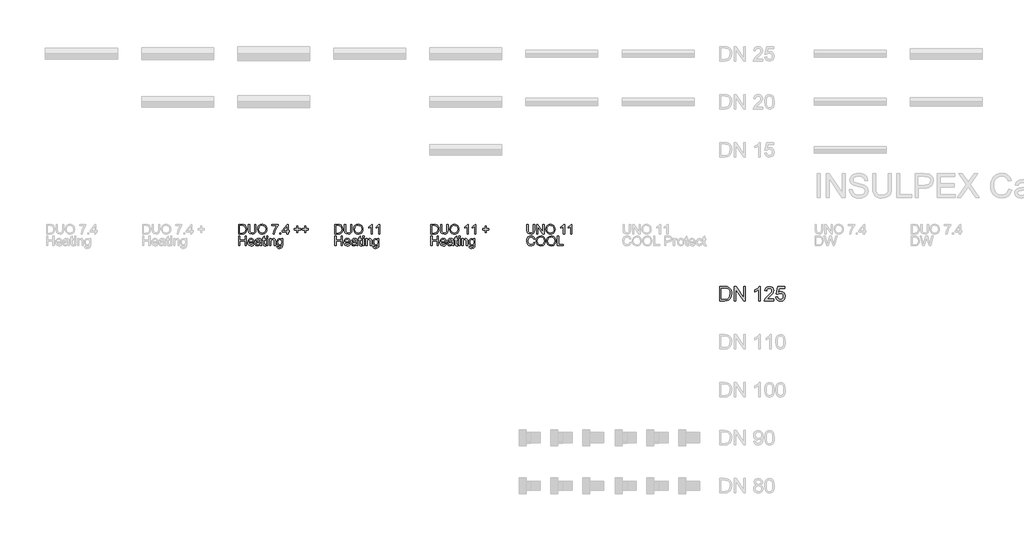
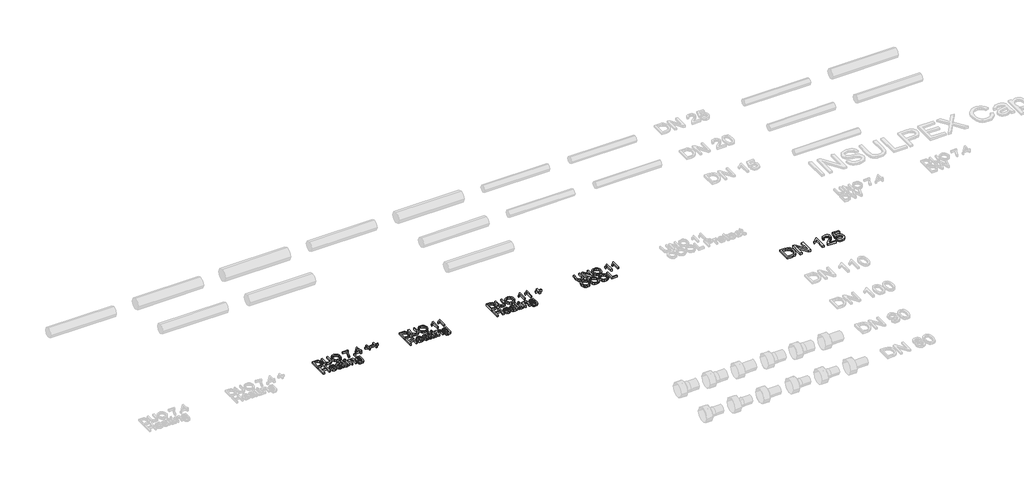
# One storey, part 17 of 44: 5 proxies.
"""IFC4 building model written with IfcOpenShell, lengths in millimetres."""

from ifc_helpers import new_model, si_unit, origin, origin_with_axes, place, context, project, spatial, polyline, outline, extrude, element, save

model = new_model("IFC4")

# Units and contexts
model_context = context("Model", 3, world=origin())
ifc_project = project(units=[si_unit("LENGTHUNIT", "METRE", prefix="MILLI")], contexts=[model_context])

# Site, building, storey
site = spatial("IfcSite", under=ifc_project)
building = spatial("IfcBuilding", under=site)
storey = spatial("IfcBuildingStorey", under=building, Name="REHAU Starting view", Elevation=0.0)

# Proxies
placement = place(None, origin())
element("IfcBuildingElementProxy", 1, Name="100", ObjectType="100", at=placement, inside=storey, context=model_context, shape_type="SweptSolid", body=[
    extrude(outline(polyline([(10010.9874089, 13121.9748178), (10010.9874089, 13222.431128), (10045.6418929, 13222.431128), (10063.5700088, 13220.9841255), (10078.3343395, 13213.7981638), (10090.2291907, 13196.6303374), (10094.1777908, 13172.7425332), (10091.5045149, 13152.4722352), (10084.6373844, 13137.8427946), (10075.4648599, 13128.7315838), (10063.4596442, 13123.6916005), (10047.3096246, 13121.9748178), (10010.9874089, 13121.9748178)]), holes=[polyline([(10023.5444477, 13134.5318566), (10045.7645202, 13134.5318566), (10061.9268025, 13136.3467411), (10071.2464797, 13141.4725636), (10078.8861625, 13153.9437632), (10081.620752, 13172.9387369), (10080.2810484, 13186.6239471), (10076.2619376, 13196.7284393), (10063.2266522, 13207.863001), (10045.4211637, 13209.8740892), (10023.5444477, 13209.8740892), (10023.5444477, 13134.5318566)])]), origin_with_axes(), (0.0, 0.0, 1.0), 20.0),
    extrude(outline(polyline([(10177.3681726, 13222.431128), (10189.9252114, 13222.431128), (10189.9252114, 13164.477451), (10186.5161716, 13140.4547567), (10174.2289129, 13125.9847316), (10163.9650053, 13121.8000739), (10150.9297199, 13120.405188), (10127.9861461, 13125.2612303), (10120.3464634, 13131.2055902), (10115.2574291, 13139.3265853), (10111.4437191, 13164.477451), (10111.4437191, 13222.431128), (10124.0007578, 13222.431128), (10124.0007578, 13164.9189094), (10126.4778299, 13145.7767829), (10134.9881668, 13136.2976902), (10149.7524975, 13132.9622268), (10162.5241341, 13134.6115644), (10171.0160768, 13139.5595772), (10175.7801487, 13149.1980855), (10177.3681726, 13164.9189094), (10177.3681726, 13222.431128)])), origin_with_axes(), (0.0, 0.0, 1.0), 20.0),
    extrude(outline(polyline([(10207.1911397, 13170.8785977), (10210.5388658, 13193.0925389), (10220.5820443, 13209.8986147), (10235.9165921, 13220.4752221), (10255.1384264, 13224.0007578), (10268.3147332, 13222.3452889), (10280.1298766, 13217.3788819), (10289.9400631, 13209.4510249), (10297.1014993, 13198.9112058), (10301.479295, 13186.2683279), (10302.9385603, 13172.0312947), (10301.402653, 13157.6041891), (10296.794931, 13144.7835015), (10289.369846, 13134.2252883), (10279.3818499, 13126.5856055), (10267.667874, 13121.9502924), (10255.06485, 13120.405188), (10241.6862081, 13122.1127736), (10229.8036197, 13127.2355304), (10220.0179586, 13135.3105402), (10212.9300988, 13145.8748848), (10207.1911397, 13170.8785977)]), holes=[polyline([(10219.7481785, 13170.7559704), (10222.2589731, 13155.0412778), (10229.7913569, 13143.0667189), (10241.1129253, 13135.4883498), (10254.9912736, 13132.9622268), (10269.071957, 13135.5128753), (10280.4119195, 13143.1648208), (10287.889121, 13155.5072617), (10290.3815215, 13172.1293965), (10286.1140904, 13192.8534156), (10273.6428907, 13206.575414), (10255.2120028, 13211.4437191), (10241.7046022, 13209.0984714), (10230.2205526, 13202.0627282), (10222.366272, 13189.5455433), (10219.7481785, 13170.7559704)])]), origin_with_axes(), (0.0, 0.0, 1.0), 20.0),
    extrude(outline(polyline([(10354.7363452, 13208.3044594), (10354.7363452, 13220.8614981), (10420.6607988, 13220.8614981), (10420.6607988, 13210.7079551), (10401.9601307, 13183.6931539), (10387.6495211, 13149.2716619), (10382.9896824, 13121.9748178), (10370.4326437, 13121.9748178), (10375.4235761, 13150.3017315), (10389.121049, 13182.3197278), (10408.10376, 13208.3044594), (10354.7363452, 13208.3044594)])), origin_with_axes(), (0.0, 0.0, 1.0), 20.0),
    extrude(outline(polyline([(10437.9267271, 13121.9748178), (10437.9267271, 13134.5318566), (10450.4837658, 13134.5318566), (10450.4837658, 13121.9748178), (10437.9267271, 13121.9748178)])), origin_with_axes(), (0.0, 0.0, 1.0), 20.0),
    extrude(outline(polyline([(10511.6993298, 13121.9748178), (10511.6993298, 13145.5192655), (10466.1800643, 13145.5192655), (10466.1800643, 13158.0763043), (10514.8385895, 13220.8614981), (10524.2563686, 13220.8614981), (10524.2563686, 13158.0763043), (10536.8134074, 13158.0763043), (10536.8134074, 13145.5192655), (10524.2563686, 13145.5192655), (10524.2563686, 13121.9748178), (10511.6993298, 13121.9748178)]), holes=[polyline([(10511.6993298, 13158.0763043), (10511.6993298, 13196.8755921), (10481.6311081, 13158.0763043), (10511.6993298, 13158.0763043)])]), origin_with_axes(), (0.0, 0.0, 1.0), 20.0),
    extrude(outline(polyline([(10615.2948997, 13137.6711163), (10615.2948997, 13164.3548237), (10588.6111923, 13164.3548237), (10588.6111923, 13176.9118625), (10615.2948997, 13176.9118625), (10615.2948997, 13203.5955698), (10627.8519384, 13203.5955698), (10627.8519384, 13176.9118625), (10654.5356458, 13176.9118625), (10654.5356458, 13164.3548237), (10627.8519384, 13164.3548237), (10627.8519384, 13137.6711163), (10615.2948997, 13137.6711163)])), origin_with_axes(), (0.0, 0.0, 1.0), 20.0),
    extrude(outline(polyline([(10696.9156517, 13137.6711163), (10696.9156517, 13164.3548237), (10670.2319443, 13164.3548237), (10670.2319443, 13176.9118625), (10696.9156517, 13176.9118625), (10696.9156517, 13203.5955698), (10709.4726904, 13203.5955698), (10709.4726904, 13176.9118625), (10736.1563978, 13176.9118625), (10736.1563978, 13164.3548237), (10709.4726904, 13164.3548237), (10709.4726904, 13137.6711163), (10696.9156517, 13137.6711163)])), origin_with_axes(), (0.0, 0.0, 1.0), 20.0),
    extrude(outline(polyline([(10010.9874089, 13000.0), (10010.9874089, 13100.4563101), (10023.5444477, 13100.4563101), (10023.5444477, 13059.6459342), (10076.9118625, 13059.6459342), (10076.9118625, 13100.4563101), (10089.4689012, 13100.4563101), (10089.4689012, 13000.0), (10076.9118625, 13000.0), (10076.9118625, 13047.0888954), (10023.5444477, 13047.0888954), (10023.5444477, 13000.0), (10010.9874089, 13000.0)])), origin_with_axes(), (0.0, 0.0, 1.0), 20.0),
    extrude(outline(polyline([(10161.5247213, 13021.9748178), (10173.8365055, 13020.405188), (10169.4004617, 13011.1284304), (10162.321799, 13004.1938547), (10152.7599328, 12999.8712413), (10140.8742787, 12998.4303702), (10126.1406048, 13000.9166393), (10114.803708, 13008.3754468), (10107.5748268, 13020.3224146), (10105.1651997, 13036.2731647), (10107.5993522, 13052.7604095), (10114.9018098, 13065.0905877), (10126.0854225, 13072.7793214), (10140.1630402, 13075.3422326), (10153.8022651, 13072.7854527), (10164.7007692, 13065.1151131), (10171.846877, 13052.8094604), (10174.2289129, 13036.3467411), (10174.1553365, 13032.9622268), (10117.7222385, 13032.9622268), (10119.8958079, 13023.5628418), (10124.9449883, 13016.6527916), (10132.2321175, 13012.4037546), (10141.1195333, 13010.9874089), (10153.4313175, 13013.6116338), (10161.5247213, 13021.9748178)]), holes=[polyline([(10117.7222385, 13045.5192655), (10161.6718741, 13045.5192655), (10156.6441535, 13056.8990819), (10149.3233018, 13061.3136659), (10140.1139892, 13062.7851938), (10124.6506827, 13058.088567), (10119.7854433, 13052.5979283), (10117.7222385, 13045.5192655)])]), origin_with_axes(), (0.0, 0.0, 1.0), 20.0),
    extrude(outline(polyline([(10233.8748471, 13009.4177791), (10221.697953, 13000.9074423), (10208.2457347, 12998.4303702), (10197.7519008, 12999.9202922), (10190.0110505, 13004.3900585), (10185.2377816, 13011.1774813), (10183.646692, 13019.6203731), (10186.0501877, 13029.5531869), (10192.3654953, 13036.7636741), (10201.157875, 13040.8839524), (10212.0226566, 13042.7724133), (10233.8012707, 13047.0888954), (10233.8748471, 13049.8847985), (10230.4167563, 13059.1554248), (10216.5353424, 13062.7851938), (10203.8311508, 13060.3694354), (10197.7733606, 13051.7977849), (10185.2163218, 13053.3674148), (10190.6487126, 13065.6301479), (10201.5870706, 13072.8161096), (10218.1540231, 13075.3422326), (10233.372075, 13073.1104152), (10241.968251, 13067.5063461), (10245.8187492, 13058.9837466), (10246.4318858, 13047.9963376), (10246.4318858, 13032.3736156), (10247.069548, 13010.5582133), (10249.5711455, 13000.0), (10237.0141068, 13000.0), (10233.8748471, 13009.4177791)]), holes=[polyline([(10233.8748471, 13034.5318566), (10213.6168119, 13030.6813584), (10202.8133439, 13028.6457447), (10197.9205134, 13025.3348067), (10196.2037308, 13020.5032899), (10199.9438644, 13013.7097357), (10210.9190106, 13010.9874089), (10223.6232021, 13013.9917785), (10231.8147079, 13021.2635793), (10233.8012707, 13030.975664), (10233.8748471, 13034.5318566)])]), origin_with_axes(), (0.0, 0.0, 1.0), 20.0),
    extrude(outline(polyline([(10290.3815215, 13010.4723741), (10291.9511514, 12999.632118), (10282.5578978, 12998.4303702), (10272.0364727, 13000.5150348), (10266.7880229, 13005.9842138), (10265.267444, 13020.2335097), (10265.267444, 13061.215564), (10255.8496649, 13061.215564), (10255.8496649, 13073.7726028), (10265.267444, 13073.7726028), (10265.267444, 13091.7007187), (10277.8244828, 13099.082884), (10277.8244828, 13073.7726028), (10290.3815215, 13073.7726028), (10290.3815215, 13061.215564), (10277.8244828, 13061.215564), (10277.8244828, 13020.6013917), (10278.4866703, 13014.1266686), (10280.6326487, 13011.8335375), (10284.9123425, 13010.9874089), (10290.3815215, 13010.4723741)])), origin_with_axes(), (0.0, 0.0, 1.0), 20.0),
    extrude(outline(polyline([(10302.9385603, 13087.8992714), (10302.9385603, 13100.4563101), (10315.4955991, 13100.4563101), (10315.4955991, 13087.8992714), (10302.9385603, 13087.8992714)])), origin_with_axes(), (0.0, 0.0, 1.0), 20.0),
    extrude(outline(polyline([(10302.9385603, 13000.0), (10302.9385603, 13073.7726028), (10315.4955991, 13073.7726028), (10315.4955991, 13000.0), (10302.9385603, 13000.0)])), origin_with_axes(), (0.0, 0.0, 1.0), 20.0),
    extrude(outline(polyline([(10334.3311572, 13000.0), (10334.3311572, 13073.7726028), (10346.888196, 13073.7726028), (10346.888196, 13063.4719069), (10356.4899161, 13072.3746512), (10369.5987778, 13075.3422326), (10381.4568408, 13072.9509996), (10389.5502447, 13066.6724803), (10393.3149038, 13057.4386422), (10393.9770914, 13045.2985363), (10393.9770914, 13000.0), (10381.4200526, 13000.0), (10381.4200526, 13043.6062792), (10379.9730501, 13054.7163154), (10374.8594904, 13060.5901646), (10366.2387889, 13062.7851938), (10352.6148924, 13057.8555751), (10348.3198701, 13050.712533), (10346.888196, 13039.1426443), (10346.888196, 13000.0), (10334.3311572, 13000.0)])), origin_with_axes(), (0.0, 0.0, 1.0), 20.0),
    extrude(outline(polyline([(10408.10376, 12993.7214806), (10420.6607988, 12992.1518508), (10424.7320262, 12985.5299749), (10436.9211829, 12982.7340717), (10449.7725273, 12985.8978569), (10455.9038939, 12994.7760757), (10456.7622852, 13009.4177791), (10447.9208546, 13002.3544448), (10437.1419121, 13000.0), (10424.1955316, 13002.7407209), (10414.5416949, 13010.9628835), (10408.5360213, 13023.0171502), (10406.5341301, 13037.2541834), (10410.127111, 13056.7151409), (10420.5259087, 13070.4861903), (10436.5287755, 13075.3422326), (10447.7307822, 13072.5953804), (10456.7622852, 13064.3548237), (10456.7622852, 13073.7726028), (10469.319324, 13073.7726028), (10469.319324, 13010.0799667), (10465.8857587, 12985.6893904), (10455.0087144, 12974.3463622), (10436.6759283, 12970.1770329), (10424.9926092, 12971.6454952), (10415.7924937, 12976.0508821), (10409.8910533, 12983.4054563), (10408.10376, 12993.7214806)]), holes=[polyline([(10419.0911689, 13038.1125747), (10420.4308725, 13026.5948026), (10424.4499833, 13018.6761426), (10430.4924451, 13014.0868147), (10437.9022016, 13012.5570388), (10445.2567758, 13014.0776177), (10451.3298944, 13018.6393544), (10455.4041875, 13026.4568468), (10456.7622852, 13037.7446927), (10455.3643336, 13048.6309341), (10451.1704789, 13056.4698863), (10445.0084555, 13061.2063669), (10437.7059979, 13062.7851938), (10430.5353646, 13061.2308924), (10424.5235597, 13056.5679881), (10420.4492666, 13048.8455319), (10419.0911689, 13038.1125747)])]), origin_with_axes(), (0.0, 0.0, 1.0), 20.0),
])
element("IfcBuildingElementProxy", 2, Name="100", ObjectType="100", at=placement, inside=storey, context=model_context, shape_type="SweptSolid", body=[
    extrude(outline(polyline([(11010.9874089, 13121.9748178), (11010.9874089, 13222.431128), (11045.6418929, 13222.431128), (11063.5700088, 13220.9841255), (11078.3343395, 13213.7981638), (11090.2291907, 13196.6303374), (11094.1777908, 13172.7425332), (11091.5045149, 13152.4722352), (11084.6373844, 13137.8427946), (11075.4648599, 13128.7315838), (11063.4596442, 13123.6916005), (11047.3096246, 13121.9748178), (11010.9874089, 13121.9748178)]), holes=[polyline([(11023.5444477, 13134.5318566), (11045.7645202, 13134.5318566), (11061.9268025, 13136.3467411), (11071.2464797, 13141.4725636), (11078.8861625, 13153.9437632), (11081.620752, 13172.9387369), (11080.2810484, 13186.6239471), (11076.2619376, 13196.7284393), (11063.2266522, 13207.863001), (11045.4211637, 13209.8740892), (11023.5444477, 13209.8740892), (11023.5444477, 13134.5318566)])]), origin_with_axes(), (0.0, 0.0, 1.0), 20.0),
    extrude(outline(polyline([(11177.3681726, 13222.431128), (11189.9252114, 13222.431128), (11189.9252114, 13164.477451), (11186.5161716, 13140.4547567), (11174.2289129, 13125.9847316), (11163.9650053, 13121.8000739), (11150.9297199, 13120.405188), (11127.9861461, 13125.2612303), (11120.3464634, 13131.2055902), (11115.2574291, 13139.3265853), (11111.4437191, 13164.477451), (11111.4437191, 13222.431128), (11124.0007578, 13222.431128), (11124.0007578, 13164.9189094), (11126.4778299, 13145.7767829), (11134.9881668, 13136.2976902), (11149.7524975, 13132.9622268), (11162.5241341, 13134.6115644), (11171.0160768, 13139.5595772), (11175.7801487, 13149.1980855), (11177.3681726, 13164.9189094), (11177.3681726, 13222.431128)])), origin_with_axes(), (0.0, 0.0, 1.0), 20.0),
    extrude(outline(polyline([(11207.1911397, 13170.8785977), (11210.5388658, 13193.0925389), (11220.5820443, 13209.8986147), (11235.9165921, 13220.4752221), (11255.1384264, 13224.0007578), (11268.3147332, 13222.3452889), (11280.1298766, 13217.3788819), (11289.9400631, 13209.4510249), (11297.1014993, 13198.9112058), (11301.479295, 13186.2683279), (11302.9385603, 13172.0312947), (11301.402653, 13157.6041891), (11296.794931, 13144.7835015), (11289.369846, 13134.2252883), (11279.3818499, 13126.5856055), (11267.667874, 13121.9502924), (11255.06485, 13120.405188), (11241.6862081, 13122.1127736), (11229.8036197, 13127.2355304), (11220.0179586, 13135.3105402), (11212.9300988, 13145.8748848), (11207.1911397, 13170.8785977)]), holes=[polyline([(11219.7481785, 13170.7559704), (11222.2589731, 13155.0412778), (11229.7913569, 13143.0667189), (11241.1129253, 13135.4883498), (11254.9912736, 13132.9622268), (11269.071957, 13135.5128753), (11280.4119195, 13143.1648208), (11287.889121, 13155.5072617), (11290.3815215, 13172.1293965), (11286.1140904, 13192.8534156), (11273.6428907, 13206.575414), (11255.2120028, 13211.4437191), (11241.7046022, 13209.0984714), (11230.2205526, 13202.0627282), (11222.366272, 13189.5455433), (11219.7481785, 13170.7559704)])]), origin_with_axes(), (0.0, 0.0, 1.0), 20.0),
    extrude(outline(polyline([(11401.8252406, 13121.9748178), (11389.2682018, 13121.9748178), (11389.2682018, 13200.2601064), (11377.3733507, 13191.7865578), (11364.1541243, 13185.4467247), (11364.1541243, 13197.3170505), (11382.5604868, 13209.0647488), (11393.7318367, 13222.431128), (11401.8252406, 13222.431128), (11401.8252406, 13121.9748178)])), origin_with_axes(), (0.0, 0.0, 1.0), 20.0),
    extrude(outline(polyline([(11478.7371031, 13121.9748178), (11466.1800643, 13121.9748178), (11466.1800643, 13200.2601064), (11454.2852131, 13191.7865578), (11441.0659868, 13185.4467247), (11441.0659868, 13197.3170505), (11459.4723492, 13209.0647488), (11470.6436992, 13222.431128), (11478.7371031, 13222.431128), (11478.7371031, 13121.9748178)])), origin_with_axes(), (0.0, 0.0, 1.0), 20.0),
    extrude(outline(polyline([(11010.9874089, 13000.0), (11010.9874089, 13100.4563101), (11023.5444477, 13100.4563101), (11023.5444477, 13059.6459342), (11076.9118625, 13059.6459342), (11076.9118625, 13100.4563101), (11089.4689012, 13100.4563101), (11089.4689012, 13000.0), (11076.9118625, 13000.0), (11076.9118625, 13047.0888954), (11023.5444477, 13047.0888954), (11023.5444477, 13000.0), (11010.9874089, 13000.0)])), origin_with_axes(), (0.0, 0.0, 1.0), 20.0),
    extrude(outline(polyline([(11161.5247213, 13021.9748178), (11173.8365055, 13020.405188), (11169.4004617, 13011.1284304), (11162.321799, 13004.1938547), (11152.7599328, 12999.8712413), (11140.8742787, 12998.4303702), (11126.1406048, 13000.9166393), (11114.803708, 13008.3754468), (11107.5748268, 13020.3224146), (11105.1651997, 13036.2731647), (11107.5993522, 13052.7604095), (11114.9018098, 13065.0905877), (11126.0854225, 13072.7793214), (11140.1630402, 13075.3422326), (11153.8022651, 13072.7854527), (11164.7007692, 13065.1151131), (11171.846877, 13052.8094604), (11174.2289129, 13036.3467411), (11174.1553365, 13032.9622268), (11117.7222385, 13032.9622268), (11119.8958079, 13023.5628418), (11124.9449883, 13016.6527916), (11132.2321175, 13012.4037546), (11141.1195333, 13010.9874089), (11153.4313175, 13013.6116338), (11161.5247213, 13021.9748178)]), holes=[polyline([(11117.7222385, 13045.5192655), (11161.6718741, 13045.5192655), (11156.6441535, 13056.8990819), (11149.3233018, 13061.3136659), (11140.1139892, 13062.7851938), (11124.6506827, 13058.088567), (11119.7854433, 13052.5979283), (11117.7222385, 13045.5192655)])]), origin_with_axes(), (0.0, 0.0, 1.0), 20.0),
    extrude(outline(polyline([(11233.8748471, 13009.4177791), (11221.697953, 13000.9074423), (11208.2457347, 12998.4303702), (11197.7519008, 12999.9202922), (11190.0110505, 13004.3900585), (11185.2377816, 13011.1774813), (11183.646692, 13019.6203731), (11186.0501877, 13029.5531869), (11192.3654953, 13036.7636741), (11201.157875, 13040.8839524), (11212.0226566, 13042.7724133), (11233.8012707, 13047.0888954), (11233.8748471, 13049.8847985), (11230.4167563, 13059.1554248), (11216.5353424, 13062.7851938), (11203.8311508, 13060.3694354), (11197.7733606, 13051.7977849), (11185.2163218, 13053.3674148), (11190.6487126, 13065.6301479), (11201.5870706, 13072.8161096), (11218.1540231, 13075.3422326), (11233.372075, 13073.1104152), (11241.968251, 13067.5063461), (11245.8187492, 13058.9837466), (11246.4318858, 13047.9963376), (11246.4318858, 13032.3736156), (11247.069548, 13010.5582133), (11249.5711455, 13000.0), (11237.0141068, 13000.0), (11233.8748471, 13009.4177791)]), holes=[polyline([(11233.8748471, 13034.5318566), (11213.6168119, 13030.6813584), (11202.8133439, 13028.6457447), (11197.9205134, 13025.3348067), (11196.2037308, 13020.5032899), (11199.9438644, 13013.7097357), (11210.9190106, 13010.9874089), (11223.6232021, 13013.9917785), (11231.8147079, 13021.2635793), (11233.8012707, 13030.975664), (11233.8748471, 13034.5318566)])]), origin_with_axes(), (0.0, 0.0, 1.0), 20.0),
    extrude(outline(polyline([(11290.3815215, 13010.4723741), (11291.9511514, 12999.632118), (11282.5578978, 12998.4303702), (11272.0364727, 13000.5150348), (11266.7880229, 13005.9842138), (11265.267444, 13020.2335097), (11265.267444, 13061.215564), (11255.8496649, 13061.215564), (11255.8496649, 13073.7726028), (11265.267444, 13073.7726028), (11265.267444, 13091.7007187), (11277.8244828, 13099.082884), (11277.8244828, 13073.7726028), (11290.3815215, 13073.7726028), (11290.3815215, 13061.215564), (11277.8244828, 13061.215564), (11277.8244828, 13020.6013917), (11278.4866703, 13014.1266686), (11280.6326487, 13011.8335375), (11284.9123425, 13010.9874089), (11290.3815215, 13010.4723741)])), origin_with_axes(), (0.0, 0.0, 1.0), 20.0),
    extrude(outline(polyline([(11302.9385603, 13087.8992714), (11302.9385603, 13100.4563101), (11315.4955991, 13100.4563101), (11315.4955991, 13087.8992714), (11302.9385603, 13087.8992714)])), origin_with_axes(), (0.0, 0.0, 1.0), 20.0),
    extrude(outline(polyline([(11302.9385603, 13000.0), (11302.9385603, 13073.7726028), (11315.4955991, 13073.7726028), (11315.4955991, 13000.0), (11302.9385603, 13000.0)])), origin_with_axes(), (0.0, 0.0, 1.0), 20.0),
    extrude(outline(polyline([(11334.3311572, 13000.0), (11334.3311572, 13073.7726028), (11346.888196, 13073.7726028), (11346.888196, 13063.4719069), (11356.4899161, 13072.3746512), (11369.5987778, 13075.3422326), (11381.4568408, 13072.9509996), (11389.5502447, 13066.6724803), (11393.3149038, 13057.4386422), (11393.9770914, 13045.2985363), (11393.9770914, 13000.0), (11381.4200526, 13000.0), (11381.4200526, 13043.6062792), (11379.9730501, 13054.7163154), (11374.8594904, 13060.5901646), (11366.2387889, 13062.7851938), (11352.6148924, 13057.8555751), (11348.3198701, 13050.712533), (11346.888196, 13039.1426443), (11346.888196, 13000.0), (11334.3311572, 13000.0)])), origin_with_axes(), (0.0, 0.0, 1.0), 20.0),
    extrude(outline(polyline([(11408.10376, 12993.7214806), (11420.6607988, 12992.1518508), (11424.7320262, 12985.5299749), (11436.9211829, 12982.7340717), (11449.7725273, 12985.8978569), (11455.9038939, 12994.7760757), (11456.7622852, 13009.4177791), (11447.9208546, 13002.3544448), (11437.1419121, 13000.0), (11424.1955316, 13002.7407209), (11414.5416949, 13010.9628835), (11408.5360213, 13023.0171502), (11406.5341301, 13037.2541834), (11410.127111, 13056.7151409), (11420.5259087, 13070.4861903), (11436.5287755, 13075.3422326), (11447.7307822, 13072.5953804), (11456.7622852, 13064.3548237), (11456.7622852, 13073.7726028), (11469.319324, 13073.7726028), (11469.319324, 13010.0799667), (11465.8857587, 12985.6893904), (11455.0087144, 12974.3463622), (11436.6759283, 12970.1770329), (11424.9926092, 12971.6454952), (11415.7924937, 12976.0508821), (11409.8910533, 12983.4054563), (11408.10376, 12993.7214806)]), holes=[polyline([(11419.0911689, 13038.1125747), (11420.4308725, 13026.5948026), (11424.4499833, 13018.6761426), (11430.4924451, 13014.0868147), (11437.9022016, 13012.5570388), (11445.2567758, 13014.0776177), (11451.3298944, 13018.6393544), (11455.4041875, 13026.4568468), (11456.7622852, 13037.7446927), (11455.3643336, 13048.6309341), (11451.1704789, 13056.4698863), (11445.0084555, 13061.2063669), (11437.7059979, 13062.7851938), (11430.5353646, 13061.2308924), (11424.5235597, 13056.5679881), (11420.4492666, 13048.8455319), (11419.0911689, 13038.1125747)])]), origin_with_axes(), (0.0, 0.0, 1.0), 20.0),
])
element("IfcBuildingElementProxy", 3, Name="100", ObjectType="100", at=placement, inside=storey, context=model_context, shape_type="SweptSolid", body=[
    extrude(outline(polyline([(12010.9874089, 13121.9748178), (12010.9874089, 13222.431128), (12045.6418929, 13222.431128), (12063.5700088, 13220.9841255), (12078.3343395, 13213.7981638), (12090.2291907, 13196.6303374), (12094.1777908, 13172.7425332), (12091.5045149, 13152.4722352), (12084.6373844, 13137.8427946), (12075.4648599, 13128.7315838), (12063.4596442, 13123.6916005), (12047.3096246, 13121.9748178), (12010.9874089, 13121.9748178)]), holes=[polyline([(12023.5444477, 13134.5318566), (12045.7645202, 13134.5318566), (12061.9268025, 13136.3467411), (12071.2464797, 13141.4725636), (12078.8861625, 13153.9437632), (12081.620752, 13172.9387369), (12080.2810484, 13186.6239471), (12076.2619376, 13196.7284393), (12063.2266522, 13207.863001), (12045.4211637, 13209.8740892), (12023.5444477, 13209.8740892), (12023.5444477, 13134.5318566)])]), origin_with_axes(), (0.0, 0.0, 1.0), 20.0),
    extrude(outline(polyline([(12177.3681726, 13222.431128), (12189.9252114, 13222.431128), (12189.9252114, 13164.477451), (12186.5161716, 13140.4547567), (12174.2289129, 13125.9847316), (12163.9650053, 13121.8000739), (12150.9297199, 13120.405188), (12127.9861461, 13125.2612303), (12120.3464634, 13131.2055902), (12115.2574291, 13139.3265853), (12111.4437191, 13164.477451), (12111.4437191, 13222.431128), (12124.0007578, 13222.431128), (12124.0007578, 13164.9189094), (12126.4778299, 13145.7767829), (12134.9881668, 13136.2976902), (12149.7524975, 13132.9622268), (12162.5241341, 13134.6115644), (12171.0160768, 13139.5595772), (12175.7801487, 13149.1980855), (12177.3681726, 13164.9189094), (12177.3681726, 13222.431128)])), origin_with_axes(), (0.0, 0.0, 1.0), 20.0),
    extrude(outline(polyline([(12207.1911397, 13170.8785977), (12210.5388658, 13193.0925389), (12220.5820443, 13209.8986147), (12235.9165921, 13220.4752221), (12255.1384264, 13224.0007578), (12268.3147332, 13222.3452889), (12280.1298766, 13217.3788819), (12289.9400631, 13209.4510249), (12297.1014993, 13198.9112058), (12301.479295, 13186.2683279), (12302.9385603, 13172.0312947), (12301.402653, 13157.6041891), (12296.794931, 13144.7835015), (12289.369846, 13134.2252883), (12279.3818499, 13126.5856055), (12267.667874, 13121.9502924), (12255.06485, 13120.405188), (12241.6862081, 13122.1127736), (12229.8036197, 13127.2355304), (12220.0179586, 13135.3105402), (12212.9300988, 13145.8748848), (12207.1911397, 13170.8785977)]), holes=[polyline([(12219.7481785, 13170.7559704), (12222.2589731, 13155.0412778), (12229.7913569, 13143.0667189), (12241.1129253, 13135.4883498), (12254.9912736, 13132.9622268), (12269.071957, 13135.5128753), (12280.4119195, 13143.1648208), (12287.889121, 13155.5072617), (12290.3815215, 13172.1293965), (12286.1140904, 13192.8534156), (12273.6428907, 13206.575414), (12255.2120028, 13211.4437191), (12241.7046022, 13209.0984714), (12230.2205526, 13202.0627282), (12222.366272, 13189.5455433), (12219.7481785, 13170.7559704)])]), origin_with_axes(), (0.0, 0.0, 1.0), 20.0),
    extrude(outline(polyline([(12401.8252406, 13121.9748178), (12389.2682018, 13121.9748178), (12389.2682018, 13200.2601064), (12377.3733507, 13191.7865578), (12364.1541243, 13185.4467247), (12364.1541243, 13197.3170505), (12382.5604868, 13209.0647488), (12393.7318367, 13222.431128), (12401.8252406, 13222.431128), (12401.8252406, 13121.9748178)])), origin_with_axes(), (0.0, 0.0, 1.0), 20.0),
    extrude(outline(polyline([(12478.7371031, 13121.9748178), (12466.1800643, 13121.9748178), (12466.1800643, 13200.2601064), (12454.2852131, 13191.7865578), (12441.0659868, 13185.4467247), (12441.0659868, 13197.3170505), (12459.4723492, 13209.0647488), (12470.6436992, 13222.431128), (12478.7371031, 13222.431128), (12478.7371031, 13121.9748178)])), origin_with_axes(), (0.0, 0.0, 1.0), 20.0),
    extrude(outline(polyline([(12576.0541535, 13137.6711163), (12576.0541535, 13164.3548237), (12549.3704461, 13164.3548237), (12549.3704461, 13176.9118625), (12576.0541535, 13176.9118625), (12576.0541535, 13203.5955698), (12588.6111923, 13203.5955698), (12588.6111923, 13176.9118625), (12615.2948997, 13176.9118625), (12615.2948997, 13164.3548237), (12588.6111923, 13164.3548237), (12588.6111923, 13137.6711163), (12576.0541535, 13137.6711163)])), origin_with_axes(), (0.0, 0.0, 1.0), 20.0),
    extrude(outline(polyline([(12010.9874089, 13000.0), (12010.9874089, 13100.4563101), (12023.5444477, 13100.4563101), (12023.5444477, 13059.6459342), (12076.9118625, 13059.6459342), (12076.9118625, 13100.4563101), (12089.4689012, 13100.4563101), (12089.4689012, 13000.0), (12076.9118625, 13000.0), (12076.9118625, 13047.0888954), (12023.5444477, 13047.0888954), (12023.5444477, 13000.0), (12010.9874089, 13000.0)])), origin_with_axes(), (0.0, 0.0, 1.0), 20.0),
    extrude(outline(polyline([(12161.5247213, 13021.9748178), (12173.8365055, 13020.405188), (12169.4004617, 13011.1284304), (12162.321799, 13004.1938547), (12152.7599328, 12999.8712413), (12140.8742787, 12998.4303702), (12126.1406048, 13000.9166393), (12114.803708, 13008.3754468), (12107.5748268, 13020.3224146), (12105.1651997, 13036.2731647), (12107.5993522, 13052.7604095), (12114.9018098, 13065.0905877), (12126.0854225, 13072.7793214), (12140.1630402, 13075.3422326), (12153.8022651, 13072.7854527), (12164.7007692, 13065.1151131), (12171.846877, 13052.8094604), (12174.2289129, 13036.3467411), (12174.1553365, 13032.9622268), (12117.7222385, 13032.9622268), (12119.8958079, 13023.5628418), (12124.9449883, 13016.6527916), (12132.2321175, 13012.4037546), (12141.1195333, 13010.9874089), (12153.4313175, 13013.6116338), (12161.5247213, 13021.9748178)]), holes=[polyline([(12117.7222385, 13045.5192655), (12161.6718741, 13045.5192655), (12156.6441535, 13056.8990819), (12149.3233018, 13061.3136659), (12140.1139892, 13062.7851938), (12124.6506827, 13058.088567), (12119.7854433, 13052.5979283), (12117.7222385, 13045.5192655)])]), origin_with_axes(), (0.0, 0.0, 1.0), 20.0),
    extrude(outline(polyline([(12233.8748471, 13009.4177791), (12221.697953, 13000.9074423), (12208.2457347, 12998.4303702), (12197.7519008, 12999.9202922), (12190.0110505, 13004.3900585), (12185.2377816, 13011.1774813), (12183.646692, 13019.6203731), (12186.0501877, 13029.5531869), (12192.3654953, 13036.7636741), (12201.157875, 13040.8839524), (12212.0226566, 13042.7724133), (12233.8012707, 13047.0888954), (12233.8748471, 13049.8847985), (12230.4167563, 13059.1554248), (12216.5353424, 13062.7851938), (12203.8311508, 13060.3694354), (12197.7733606, 13051.7977849), (12185.2163218, 13053.3674148), (12190.6487126, 13065.6301479), (12201.5870706, 13072.8161096), (12218.1540231, 13075.3422326), (12233.372075, 13073.1104152), (12241.968251, 13067.5063461), (12245.8187492, 13058.9837466), (12246.4318858, 13047.9963376), (12246.4318858, 13032.3736156), (12247.069548, 13010.5582133), (12249.5711455, 13000.0), (12237.0141068, 13000.0), (12233.8748471, 13009.4177791)]), holes=[polyline([(12233.8748471, 13034.5318566), (12213.6168119, 13030.6813584), (12202.8133439, 13028.6457447), (12197.9205134, 13025.3348067), (12196.2037308, 13020.5032899), (12199.9438644, 13013.7097357), (12210.9190106, 13010.9874089), (12223.6232021, 13013.9917785), (12231.8147079, 13021.2635793), (12233.8012707, 13030.975664), (12233.8748471, 13034.5318566)])]), origin_with_axes(), (0.0, 0.0, 1.0), 20.0),
    extrude(outline(polyline([(12290.3815215, 13010.4723741), (12291.9511514, 12999.632118), (12282.5578978, 12998.4303702), (12272.0364727, 13000.5150348), (12266.7880229, 13005.9842138), (12265.267444, 13020.2335097), (12265.267444, 13061.215564), (12255.8496649, 13061.215564), (12255.8496649, 13073.7726028), (12265.267444, 13073.7726028), (12265.267444, 13091.7007187), (12277.8244828, 13099.082884), (12277.8244828, 13073.7726028), (12290.3815215, 13073.7726028), (12290.3815215, 13061.215564), (12277.8244828, 13061.215564), (12277.8244828, 13020.6013917), (12278.4866703, 13014.1266686), (12280.6326487, 13011.8335375), (12284.9123425, 13010.9874089), (12290.3815215, 13010.4723741)])), origin_with_axes(), (0.0, 0.0, 1.0), 20.0),
    extrude(outline(polyline([(12302.9385603, 13087.8992714), (12302.9385603, 13100.4563101), (12315.4955991, 13100.4563101), (12315.4955991, 13087.8992714), (12302.9385603, 13087.8992714)])), origin_with_axes(), (0.0, 0.0, 1.0), 20.0),
    extrude(outline(polyline([(12302.9385603, 13000.0), (12302.9385603, 13073.7726028), (12315.4955991, 13073.7726028), (12315.4955991, 13000.0), (12302.9385603, 13000.0)])), origin_with_axes(), (0.0, 0.0, 1.0), 20.0),
    extrude(outline(polyline([(12334.3311572, 13000.0), (12334.3311572, 13073.7726028), (12346.888196, 13073.7726028), (12346.888196, 13063.4719069), (12356.4899161, 13072.3746512), (12369.5987778, 13075.3422326), (12381.4568408, 13072.9509996), (12389.5502447, 13066.6724803), (12393.3149038, 13057.4386422), (12393.9770914, 13045.2985363), (12393.9770914, 13000.0), (12381.4200526, 13000.0), (12381.4200526, 13043.6062792), (12379.9730501, 13054.7163154), (12374.8594904, 13060.5901646), (12366.2387889, 13062.7851938), (12352.6148924, 13057.8555751), (12348.3198701, 13050.712533), (12346.888196, 13039.1426443), (12346.888196, 13000.0), (12334.3311572, 13000.0)])), origin_with_axes(), (0.0, 0.0, 1.0), 20.0),
    extrude(outline(polyline([(12408.10376, 12993.7214806), (12420.6607988, 12992.1518508), (12424.7320262, 12985.5299749), (12436.9211829, 12982.7340717), (12449.7725273, 12985.8978569), (12455.9038939, 12994.7760757), (12456.7622852, 13009.4177791), (12447.9208546, 13002.3544448), (12437.1419121, 13000.0), (12424.1955316, 13002.7407209), (12414.5416949, 13010.9628835), (12408.5360213, 13023.0171502), (12406.5341301, 13037.2541834), (12410.127111, 13056.7151409), (12420.5259087, 13070.4861903), (12436.5287755, 13075.3422326), (12447.7307822, 13072.5953804), (12456.7622852, 13064.3548237), (12456.7622852, 13073.7726028), (12469.319324, 13073.7726028), (12469.319324, 13010.0799667), (12465.8857587, 12985.6893904), (12455.0087144, 12974.3463622), (12436.6759283, 12970.1770329), (12424.9926092, 12971.6454952), (12415.7924937, 12976.0508821), (12409.8910533, 12983.4054563), (12408.10376, 12993.7214806)]), holes=[polyline([(12419.0911689, 13038.1125747), (12420.4308725, 13026.5948026), (12424.4499833, 13018.6761426), (12430.4924451, 13014.0868147), (12437.9022016, 13012.5570388), (12445.2567758, 13014.0776177), (12451.3298944, 13018.6393544), (12455.4041875, 13026.4568468), (12456.7622852, 13037.7446927), (12455.3643336, 13048.6309341), (12451.1704789, 13056.4698863), (12445.0084555, 13061.2063669), (12437.7059979, 13062.7851938), (12430.5353646, 13061.2308924), (12424.5235597, 13056.5679881), (12420.4492666, 13048.8455319), (12419.0911689, 13038.1125747)])]), origin_with_axes(), (0.0, 0.0, 1.0), 20.0),
])
element("IfcBuildingElementProxy", 4, Name="100", ObjectType="100", at=placement, inside=storey, context=model_context, shape_type="SweptSolid", body=[
    extrude(outline(polyline([(13076.9118625, 13222.431128), (13089.4689012, 13222.431128), (13089.4689012, 13164.477451), (13086.0598614, 13140.4547567), (13073.7726028, 13125.9847316), (13063.5086951, 13121.8000739), (13050.4734097, 13120.405188), (13027.529836, 13125.2612303), (13019.8901532, 13131.2055902), (13014.8011189, 13139.3265853), (13010.9874089, 13164.477451), (13010.9874089, 13222.431128), (13023.5444477, 13222.431128), (13023.5444477, 13164.9189094), (13026.0215198, 13145.7767829), (13034.5318566, 13136.2976902), (13049.2961874, 13132.9622268), (13062.067824, 13134.6115644), (13070.5597667, 13139.5595772), (13075.3238385, 13149.1980855), (13076.9118625, 13164.9189094), (13076.9118625, 13222.431128)])), origin_with_axes(), (0.0, 0.0, 1.0), 20.0),
    extrude(outline(polyline([(13111.4437191, 13121.9748178), (13111.4437191, 13222.431128), (13124.8836746, 13222.431128), (13177.3681726, 13142.8459897), (13177.3681726, 13222.431128), (13189.9252114, 13222.431128), (13189.9252114, 13121.9748178), (13176.4852558, 13121.9748178), (13124.0007578, 13201.5844816), (13124.0007578, 13121.9748178), (13111.4437191, 13121.9748178)])), origin_with_axes(), (0.0, 0.0, 1.0), 20.0),
    extrude(outline(polyline([(13207.1911397, 13170.8785977), (13210.5388658, 13193.0925389), (13220.5820443, 13209.8986147), (13235.9165921, 13220.4752221), (13255.1384264, 13224.0007578), (13268.3147332, 13222.3452889), (13280.1298766, 13217.3788819), (13289.9400631, 13209.4510249), (13297.1014993, 13198.9112058), (13301.479295, 13186.2683279), (13302.9385603, 13172.0312947), (13301.402653, 13157.6041891), (13296.794931, 13144.7835015), (13289.369846, 13134.2252883), (13279.3818499, 13126.5856055), (13267.667874, 13121.9502924), (13255.06485, 13120.405188), (13241.6862081, 13122.1127736), (13229.8036197, 13127.2355304), (13220.0179586, 13135.3105402), (13212.9300988, 13145.8748848), (13207.1911397, 13170.8785977)]), holes=[polyline([(13219.7481785, 13170.7559704), (13222.2589731, 13155.0412778), (13229.7913569, 13143.0667189), (13241.1129253, 13135.4883498), (13254.9912736, 13132.9622268), (13269.071957, 13135.5128753), (13280.4119195, 13143.1648208), (13287.889121, 13155.5072617), (13290.3815215, 13172.1293965), (13286.1140904, 13192.8534156), (13273.6428907, 13206.575414), (13255.2120028, 13211.4437191), (13241.7046022, 13209.0984714), (13230.2205526, 13202.0627282), (13222.366272, 13189.5455433), (13219.7481785, 13170.7559704)])]), origin_with_axes(), (0.0, 0.0, 1.0), 20.0),
    extrude(outline(polyline([(13401.8252406, 13121.9748178), (13389.2682018, 13121.9748178), (13389.2682018, 13200.2601064), (13377.3733507, 13191.7865578), (13364.1541243, 13185.4467247), (13364.1541243, 13197.3170505), (13382.5604868, 13209.0647488), (13393.7318367, 13222.431128), (13401.8252406, 13222.431128), (13401.8252406, 13121.9748178)])), origin_with_axes(), (0.0, 0.0, 1.0), 20.0),
    extrude(outline(polyline([(13478.7371031, 13121.9748178), (13466.1800643, 13121.9748178), (13466.1800643, 13200.2601064), (13454.2852131, 13191.7865578), (13441.0659868, 13185.4467247), (13441.0659868, 13197.3170505), (13459.4723492, 13209.0647488), (13470.6436992, 13222.431128), (13478.7371031, 13222.431128), (13478.7371031, 13121.9748178)])), origin_with_axes(), (0.0, 0.0, 1.0), 20.0),
    extrude(outline(polyline([(13081.620752, 13035.709079), (13094.1777908, 13032.4717174), (13088.3836493, 13017.8392111), (13079.2908327, 13007.1491734), (13067.3469306, 13000.610071), (13052.9995328, 12998.4303702), (13038.4344714, 13000.0797078), (13026.8676484, 13005.0277206), (13018.0016923, 13013.1027304), (13011.5392319, 13024.1330589), (13006.2785194, 13050.9884445), (13007.7653758, 13065.6362793), (13012.225945, 13078.2852886), (13019.427235, 13088.5338678), (13029.136254, 13095.9804125), (13040.6509605, 13100.5145581), (13053.2693129, 13102.02594), (13067.0372966, 13100.0700341), (13078.4201786, 13094.2023162), (13087.0623398, 13084.7845372), (13092.6081609, 13072.1784475), (13080.0511222, 13069.1863406), (13069.7504263, 13084.6251216), (13052.7788036, 13089.4689012), (13033.133905, 13084.0978241), (13022.0361315, 13069.6768499), (13018.8355582, 13051.01297), (13022.6247427, 13029.3815087), (13034.421492, 13015.5614084), (13051.748734, 13010.9874089), (13062.2303052, 13012.544776), (13070.9644369, 13017.2168774), (13077.5587216, 13024.954662), (13081.620752, 13035.709079)])), origin_with_axes(), (0.0, 0.0, 1.0), 20.0),
    extrude(outline(polyline([(13106.7348295, 13048.9037799), (13110.0825557, 13071.117721), (13120.1257342, 13087.9237968), (13135.460282, 13098.5004042), (13154.6821162, 13102.02594), (13167.858423, 13100.370471), (13179.6735664, 13095.4040641), (13189.483753, 13087.4762071), (13196.6451892, 13076.9363879), (13201.0229849, 13064.29351), (13202.4822501, 13050.0564768), (13200.9463428, 13035.6293712), (13196.3386208, 13022.8086837), (13188.9135359, 13012.2504704), (13178.9255397, 13004.6107877), (13167.2115639, 12999.9754745), (13154.6085398, 12998.4303702), (13141.2298979, 13000.1379557), (13129.3473095, 13005.2607125), (13119.5616484, 13013.3357223), (13112.4737887, 13023.900067), (13106.7348295, 13048.9037799)]), holes=[polyline([(13119.2918683, 13048.7811526), (13121.8026629, 13033.06646), (13129.3350468, 13021.0919011), (13140.6566152, 13013.513532), (13154.5349634, 13010.9874089), (13168.6156468, 13013.5380574), (13179.9556093, 13021.1900029), (13187.4328109, 13033.5324439), (13189.9252114, 13050.1545787), (13185.6577802, 13070.8785977), (13173.1865806, 13084.6005962), (13154.7556926, 13089.4689012), (13141.248292, 13087.1236535), (13129.7642424, 13080.0879103), (13121.9099618, 13067.5707255), (13119.2918683, 13048.7811526)])]), origin_with_axes(), (0.0, 0.0, 1.0), 20.0),
    extrude(outline(polyline([(13215.0392889, 13048.9037799), (13218.3870151, 13071.117721), (13228.4301935, 13087.9237968), (13243.7647414, 13098.5004042), (13262.9865756, 13102.02594), (13276.1628824, 13100.370471), (13287.9780258, 13095.4040641), (13297.7882124, 13087.4762071), (13304.9496485, 13076.9363879), (13309.3274443, 13064.29351), (13310.7867095, 13050.0564768), (13309.2508022, 13035.6293712), (13304.6430802, 13022.8086837), (13297.2179953, 13012.2504704), (13287.2299991, 13004.6107877), (13275.5160232, 12999.9754745), (13262.9129992, 12998.4303702), (13249.5343573, 13000.1379557), (13237.6517689, 13005.2607125), (13227.8661078, 13013.3357223), (13220.778248, 13023.900067), (13215.0392889, 13048.9037799)]), holes=[polyline([(13227.5963277, 13048.7811526), (13230.1071223, 13033.06646), (13237.6395062, 13021.0919011), (13248.9610746, 13013.513532), (13262.8394228, 13010.9874089), (13276.9201062, 13013.5380574), (13288.2600687, 13021.1900029), (13295.7372702, 13033.5324439), (13298.2296708, 13050.1545787), (13293.9622396, 13070.8785977), (13281.49104, 13084.6005962), (13263.060152, 13089.4689012), (13249.5527514, 13087.1236535), (13238.0687018, 13080.0879103), (13230.2144212, 13067.5707255), (13227.5963277, 13048.7811526)])]), origin_with_axes(), (0.0, 0.0, 1.0), 20.0),
    extrude(outline(polyline([(13328.0526378, 13000.0), (13328.0526378, 13100.4563101), (13340.6096766, 13100.4563101), (13340.6096766, 13012.5570388), (13390.8378317, 13012.5570388), (13390.8378317, 13000.0), (13328.0526378, 13000.0)])), origin_with_axes(), (0.0, 0.0, 1.0), 20.0),
])
element("IfcBuildingElementProxy", 5, Name="150", ObjectType="150", at=placement, inside=storey, context=model_context, shape_type="SweptSolid", body=[
    extrude(outline(polyline([(15016.4811134, 12425.0), (15016.4811134, 12575.6844652), (15068.4628393, 12575.6844652), (15095.3550131, 12573.5139615), (15117.5015093, 12562.735019), (15127.9217668, 12551.2571007), (15135.343786, 12536.9832793), (15139.7859611, 12520.1894663), (15141.2666861, 12501.151573), (15137.2567724, 12470.7461261), (15126.9560765, 12448.8019651), (15113.1972899, 12435.135149), (15095.1894663, 12427.575174), (15070.9644369, 12425.0), (15016.4811134, 12425.0)]), holes=[polyline([(15035.3166715, 12443.8355582), (15068.6467803, 12443.8355582), (15092.8902038, 12446.5578849), (15106.8697196, 12454.2466186), (15118.3292437, 12472.9534181), (15122.431128, 12501.4458786), (15120.4215726, 12521.9736939), (15114.3929064, 12537.1304321), (15105.4855636, 12547.5414926), (15094.8399784, 12553.8322747), (15068.1317455, 12556.8489071), (15035.3166715, 12556.8489071), (15035.3166715, 12443.8355582)])]), origin_with_axes(), (0.0, 0.0, 1.0), 20.0),
    extrude(outline(polyline([(15167.1655786, 12425.0), (15167.1655786, 12575.6844652), (15187.3255119, 12575.6844652), (15266.0522589, 12456.3067578), (15266.0522589, 12575.6844652), (15284.8878171, 12575.6844652), (15284.8878171, 12425.0), (15264.7278837, 12425.0), (15186.0011368, 12544.4144956), (15186.0011368, 12425.0), (15167.1655786, 12425.0)])), origin_with_axes(), (0.0, 0.0, 1.0), 20.0),
    extrude(outline(polyline([(15440.2811718, 12425.0), (15421.4456137, 12425.0), (15421.4456137, 12542.4279329), (15403.6033369, 12529.7176099), (15383.7744974, 12520.2078604), (15383.7744974, 12538.0133489), (15411.3840411, 12555.6348965), (15428.141066, 12575.6844652), (15440.2811718, 12575.6844652), (15440.2811718, 12425.0)])), origin_with_axes(), (0.0, 0.0, 1.0), 20.0),
    extrude(outline(polyline([(15581.547858, 12443.8355582), (15581.547858, 12425.0), (15482.6611777, 12425.0), (15484.6845286, 12437.9862344), (15496.1256587, 12457.9806209), (15519.7068946, 12479.8144173), (15552.227663, 12511.1947515), (15558.325307, 12522.0104821), (15560.3578551, 12532.5319072), (15558.4402702, 12541.9634818), (15552.6875155, 12549.8039669), (15543.844552, 12555.087672), (15532.6563408, 12556.8489071), (15520.9071096, 12555.1290587), (15511.7790376, 12549.9695138), (15505.8883271, 12541.7749423), (15503.8511806, 12530.9500146), (15485.0156224, 12533.3044594), (15489.5819577, 12551.5238152), (15499.4549908, 12564.8319464), (15514.1196868, 12572.9713355), (15533.061011, 12575.6844652), (15552.140291, 12572.6678329), (15566.7773959, 12563.6179358), (15576.0894089, 12550.0982725), (15579.1934132, 12533.6723414), (15575.8456871, 12515.8116705), (15564.7172567, 12497.3439944), (15537.7331123, 12471.5370724), (15516.0648628, 12453.4188841), (15507.5667887, 12443.8355582), (15581.547858, 12443.8355582)])), origin_with_axes(), (0.0, 0.0, 1.0), 20.0),
    extrude(outline(polyline([(15600.3834161, 12465.0255611), (15619.2189743, 12467.3800058), (15622.677065, 12456.072233), (15628.7103298, 12447.9742306), (15637.2911773, 12443.1043927), (15648.3920165, 12441.4811134), (15661.8932857, 12443.7389891), (15672.0100406, 12450.5126164), (15678.3284139, 12461.0202459), (15680.4345383, 12474.4801284), (15678.4617711, 12487.1536631), (15672.5434695, 12496.8473537), (15662.6336482, 12503.00018), (15648.6863221, 12505.0511222), (15632.1500264, 12501.7769724), (15621.5734191, 12493.2788983), (15602.7378609, 12495.6333431), (15619.2189743, 12573.3300205), (15692.2067621, 12573.3300205), (15692.2067621, 12554.4944623), (15634.4492889, 12554.4944623), (15626.3926732, 12512.9973732), (15639.8479572, 12521.1643535), (15653.9470346, 12523.8866803), (15671.5455896, 12520.511363), (15686.1551033, 12510.3854111), (15695.9913482, 12494.9527614), (15699.2700964, 12475.6573507), (15696.3178434, 12456.8217926), (15687.4610844, 12440.7085612), (15670.5017244, 12427.1613067), (15648.3184401, 12422.6455552), (15629.8185743, 12425.5472245), (15615.0803018, 12434.2522322), (15604.9773425, 12447.7489029), (15600.3834161, 12465.0255611)])), origin_with_axes(), (0.0, 0.0, 1.0), 20.0),
])

save(model, "model.ifc")
